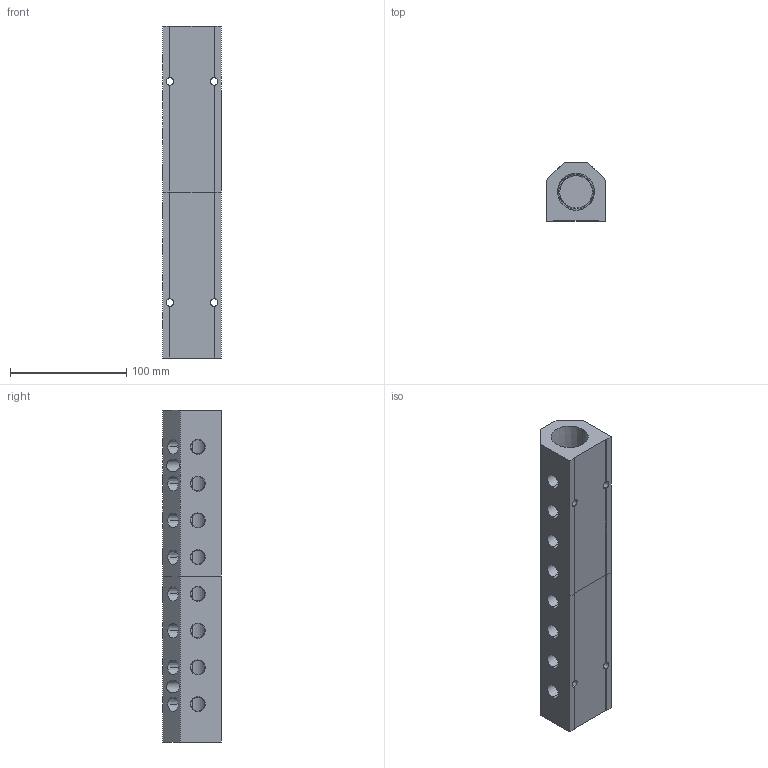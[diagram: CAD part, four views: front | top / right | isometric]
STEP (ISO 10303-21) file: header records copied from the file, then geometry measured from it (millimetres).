
FILE_DESCRIPTION (( 'STEP AP214' ), '1' );
FILE_NAME ('ALM8ABC-N4N16-286RB.STEP', '2023-11-02T06:14:37', ( '' ), ( '' ), 'SwSTEP 2.0', 'SolidWorks 2020', '' );
FILE_SCHEMA (( 'AUTOMOTIVE_DESIGN' ));
Length unit declared in the file: millimetre
Products named in the file (1): ALM8ABC-N4N16-286RB
Bounding box: 50.8 x 50.8 x 286 mm (x, y, z)
Volume: 440039.8 mm3; surface area: 96682.1 mm2
Topology: 2 solids, 2 shells, 405 faces, 1082 edges, 716 vertices
Faces by surface type: plane 234, bspline 91, cone 56, cylinder 24
Entity records: 23648 total; most frequent: CARTESIAN_POINT 10335, ORIENTED_EDGE 2164, DIRECTION 1546, EDGE_CURVE 1082, LINE 724, VECTOR 724, VERTEX_POINT 716, EDGE_LOOP 496
